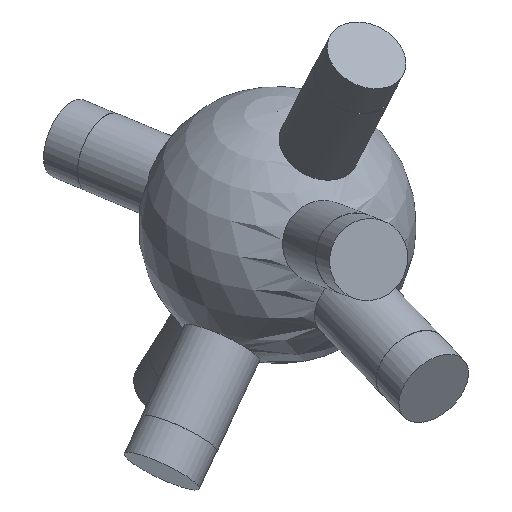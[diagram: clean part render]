
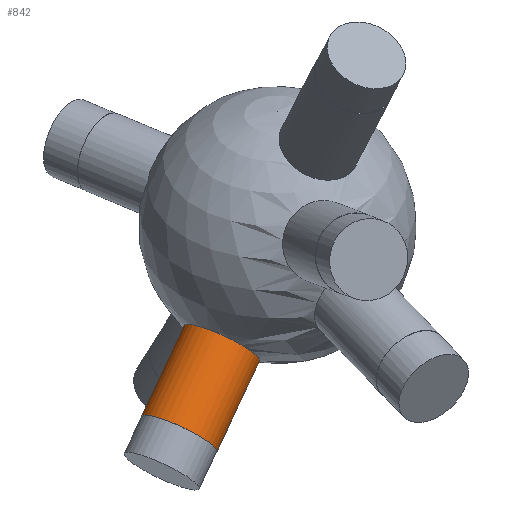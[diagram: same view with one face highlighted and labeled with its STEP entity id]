
A CAD part, isometric view. The second image highlights one B-rep face of the part: STEP entity #842.
In plain terms, the highlighted cylindrical face has radius 6 mm (diameter 12 mm), a full revolution.
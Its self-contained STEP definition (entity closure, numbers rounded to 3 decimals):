
#35 = SPHERICAL_SURFACE('',#36,20.);
#36 = AXIS2_PLACEMENT_3D('',#37,#38,#39);
#37 = CARTESIAN_POINT('',(0.,0.,0.));
#38 = DIRECTION('',(0.,0.,1.));
#39 = DIRECTION('',(1.,0.,-0.));
#244 = EDGE_CURVE('',#245,#245,#247,.T.);
#245 = VERTEX_POINT('',#246);
#246 = CARTESIAN_POINT('',(-10.772,-3.253,
    -16.534));
#247 = SURFACE_CURVE('',#248,(#253,#322),.PCURVE_S1.);
#248 = CIRCLE('',#249,6.);
#249 = AXIS2_PLACEMENT_3D('',#250,#251,#252);
#250 = CARTESIAN_POINT('',(-14.565,-3.253,
    -11.886));
#251 = DIRECTION('',(-0.763,-0.17,-0.623));
#252 = DIRECTION('',(0.632,0.,-0.775)
  );
#253 = PCURVE('',#35,#254);
#254 = DEFINITIONAL_REPRESENTATION('',(#255),#321);
#255 = B_SPLINE_CURVE_WITH_KNOTS('',8,(#256,#257,#258,#259,#260,#261,
    #262,#263,#264,#265,#266,#267,#268,#269,#270,#271,#272,#273,#274,
    #275,#276,#277,#278,#279,#280,#281,#282,#283,#284,#285,#286,#287,
    #288,#289,#290,#291,#292,#293,#294,#295,#296,#297,#298,#299,#300,
    #301,#302,#303,#304,#305,#306,#307,#308,#309,#310,#311,#312,#313,
    #314,#315,#316,#317,#318,#319,#320),.UNSPECIFIED.,.T.,.F.,(9,7,7,7,7
    ,7,7,7,7,9),(0.,0.393,1.129,1.773,
    2.901,3.746,4.381,5.332,
    5.808,6.283),.UNSPECIFIED.);
#256 = CARTESIAN_POINT('',(3.435,-0.973));
#257 = CARTESIAN_POINT('',(3.461,-0.97));
#258 = CARTESIAN_POINT('',(3.486,-0.966));
#259 = CARTESIAN_POINT('',(3.51,-0.961));
#260 = CARTESIAN_POINT('',(3.534,-0.955));
#261 = CARTESIAN_POINT('',(3.556,-0.948));
#262 = CARTESIAN_POINT('',(3.577,-0.94));
#263 = CARTESIAN_POINT('',(3.597,-0.931));
#264 = CARTESIAN_POINT('',(3.65,-0.904));
#265 = CARTESIAN_POINT('',(3.679,-0.883));
#266 = CARTESIAN_POINT('',(3.704,-0.86));
#267 = CARTESIAN_POINT('',(3.723,-0.835));
#268 = CARTESIAN_POINT('',(3.737,-0.809));
#269 = CARTESIAN_POINT('',(3.747,-0.782));
#270 = CARTESIAN_POINT('',(3.753,-0.754));
#271 = CARTESIAN_POINT('',(3.756,-0.703));
#272 = CARTESIAN_POINT('',(3.755,-0.678));
#273 = CARTESIAN_POINT('',(3.751,-0.654));
#274 = CARTESIAN_POINT('',(3.744,-0.63));
#275 = CARTESIAN_POINT('',(3.735,-0.607));
#276 = CARTESIAN_POINT('',(3.725,-0.585));
#277 = CARTESIAN_POINT('',(3.712,-0.563));
#278 = CARTESIAN_POINT('',(3.673,-0.506));
#279 = CARTESIAN_POINT('',(3.642,-0.472));
#280 = CARTESIAN_POINT('',(3.607,-0.443));
#281 = CARTESIAN_POINT('',(3.569,-0.417));
#282 = CARTESIAN_POINT('',(3.528,-0.397));
#283 = CARTESIAN_POINT('',(3.484,-0.382));
#284 = CARTESIAN_POINT('',(3.439,-0.373));
#285 = CARTESIAN_POINT('',(3.36,-0.366));
#286 = CARTESIAN_POINT('',(3.326,-0.367));
#287 = CARTESIAN_POINT('',(3.292,-0.371));
#288 = CARTESIAN_POINT('',(3.259,-0.378));
#289 = CARTESIAN_POINT('',(3.226,-0.388));
#290 = CARTESIAN_POINT('',(3.194,-0.401));
#291 = CARTESIAN_POINT('',(3.164,-0.417));
#292 = CARTESIAN_POINT('',(3.114,-0.449));
#293 = CARTESIAN_POINT('',(3.094,-0.464));
#294 = CARTESIAN_POINT('',(3.075,-0.481));
#295 = CARTESIAN_POINT('',(3.057,-0.499));
#296 = CARTESIAN_POINT('',(3.041,-0.518));
#297 = CARTESIAN_POINT('',(3.026,-0.538));
#298 = CARTESIAN_POINT('',(3.013,-0.559));
#299 = CARTESIAN_POINT('',(2.984,-0.614));
#300 = CARTESIAN_POINT('',(2.972,-0.649));
#301 = CARTESIAN_POINT('',(2.964,-0.684));
#302 = CARTESIAN_POINT('',(2.962,-0.72));
#303 = CARTESIAN_POINT('',(2.965,-0.757));
#304 = CARTESIAN_POINT('',(2.976,-0.792));
#305 = CARTESIAN_POINT('',(2.995,-0.826));
#306 = CARTESIAN_POINT('',(3.036,-0.872));
#307 = CARTESIAN_POINT('',(3.051,-0.887));
#308 = CARTESIAN_POINT('',(3.069,-0.901));
#309 = CARTESIAN_POINT('',(3.089,-0.914));
#310 = CARTESIAN_POINT('',(3.111,-0.926));
#311 = CARTESIAN_POINT('',(3.135,-0.937));
#312 = CARTESIAN_POINT('',(3.161,-0.946));
#313 = CARTESIAN_POINT('',(3.216,-0.962));
#314 = CARTESIAN_POINT('',(3.246,-0.969));
#315 = CARTESIAN_POINT('',(3.276,-0.974));
#316 = CARTESIAN_POINT('',(3.308,-0.977));
#317 = CARTESIAN_POINT('',(3.34,-0.979));
#318 = CARTESIAN_POINT('',(3.372,-0.978));
#319 = CARTESIAN_POINT('',(3.404,-0.977));
#320 = CARTESIAN_POINT('',(3.435,-0.973));
#321 = ( GEOMETRIC_REPRESENTATION_CONTEXT(2) 
PARAMETRIC_REPRESENTATION_CONTEXT() REPRESENTATION_CONTEXT('2D SPACE',''
  ) );
#322 = PCURVE('',#323,#328);
#323 = CYLINDRICAL_SURFACE('',#324,6.);
#324 = AXIS2_PLACEMENT_3D('',#325,#326,#327);
#325 = CARTESIAN_POINT('',(0.,0.,0.));
#326 = DIRECTION('',(-0.763,-0.17,-0.623));
#327 = DIRECTION('',(0.632,0.,-0.775)
  );
#328 = DEFINITIONAL_REPRESENTATION('',(#329),#333);
#329 = LINE('',#330,#331);
#330 = CARTESIAN_POINT('',(0.,19.079));
#331 = VECTOR('',#332,1.);
#332 = DIRECTION('',(1.,0.));
#333 = ( GEOMETRIC_REPRESENTATION_CONTEXT(2) 
PARAMETRIC_REPRESENTATION_CONTEXT() REPRESENTATION_CONTEXT('2D SPACE',''
  ) );
#842 = ADVANCED_FACE('',(#843),#323,.T.);
#843 = FACE_BOUND('',#844,.T.);
#844 = EDGE_LOOP('',(#845,#868,#895,#896));
#845 = ORIENTED_EDGE('',*,*,#846,.T.);
#846 = EDGE_CURVE('',#245,#847,#849,.T.);
#847 = VERTEX_POINT('',#848);
#848 = CARTESIAN_POINT('',(-21.938,-5.747,
    -25.647));
#849 = SEAM_CURVE('',#850,(#854,#861),.PCURVE_S1.);
#850 = LINE('',#851,#852);
#851 = CARTESIAN_POINT('',(3.793,0.,
    -4.649));
#852 = VECTOR('',#853,1.);
#853 = DIRECTION('',(-0.763,-0.17,-0.623));
#854 = PCURVE('',#323,#855);
#855 = DEFINITIONAL_REPRESENTATION('',(#856),#860);
#856 = LINE('',#857,#858);
#857 = CARTESIAN_POINT('',(6.283,-0.));
#858 = VECTOR('',#859,1.);
#859 = DIRECTION('',(0.,1.));
#860 = ( GEOMETRIC_REPRESENTATION_CONTEXT(2) 
PARAMETRIC_REPRESENTATION_CONTEXT() REPRESENTATION_CONTEXT('2D SPACE',''
  ) );
#861 = PCURVE('',#323,#862);
#862 = DEFINITIONAL_REPRESENTATION('',(#863),#867);
#863 = LINE('',#864,#865);
#864 = CARTESIAN_POINT('',(0.,-0.));
#865 = VECTOR('',#866,1.);
#866 = DIRECTION('',(0.,1.));
#867 = ( GEOMETRIC_REPRESENTATION_CONTEXT(2) 
PARAMETRIC_REPRESENTATION_CONTEXT() REPRESENTATION_CONTEXT('2D SPACE',''
  ) );
#868 = ORIENTED_EDGE('',*,*,#869,.F.);
#869 = EDGE_CURVE('',#847,#847,#870,.T.);
#870 = SURFACE_CURVE('',#871,(#876,#883),.PCURVE_S1.);
#871 = CIRCLE('',#872,6.);
#872 = AXIS2_PLACEMENT_3D('',#873,#874,#875);
#873 = CARTESIAN_POINT('',(-25.732,-5.747,
    -20.998));
#874 = DIRECTION('',(-0.763,-0.17,-0.623));
#875 = DIRECTION('',(0.632,0.,-0.775)
  );
#876 = PCURVE('',#323,#877);
#877 = DEFINITIONAL_REPRESENTATION('',(#878),#882);
#878 = LINE('',#879,#880);
#879 = CARTESIAN_POINT('',(0.,33.706));
#880 = VECTOR('',#881,1.);
#881 = DIRECTION('',(1.,0.));
#882 = ( GEOMETRIC_REPRESENTATION_CONTEXT(2) 
PARAMETRIC_REPRESENTATION_CONTEXT() REPRESENTATION_CONTEXT('2D SPACE',''
  ) );
#883 = PCURVE('',#884,#889);
#884 = PLANE('',#885);
#885 = AXIS2_PLACEMENT_3D('',#886,#887,#888);
#886 = CARTESIAN_POINT('',(-25.732,-5.747,
    -20.998));
#887 = DIRECTION('',(-0.763,-0.17,-0.623));
#888 = DIRECTION('',(0.632,0.,-0.775)
  );
#889 = DEFINITIONAL_REPRESENTATION('',(#890),#894);
#890 = CIRCLE('',#891,6.);
#891 = AXIS2_PLACEMENT_2D('',#892,#893);
#892 = CARTESIAN_POINT('',(0.,0.));
#893 = DIRECTION('',(1.,0.));
#894 = ( GEOMETRIC_REPRESENTATION_CONTEXT(2) 
PARAMETRIC_REPRESENTATION_CONTEXT() REPRESENTATION_CONTEXT('2D SPACE',''
  ) );
#895 = ORIENTED_EDGE('',*,*,#846,.F.);
#896 = ORIENTED_EDGE('',*,*,#244,.T.);
